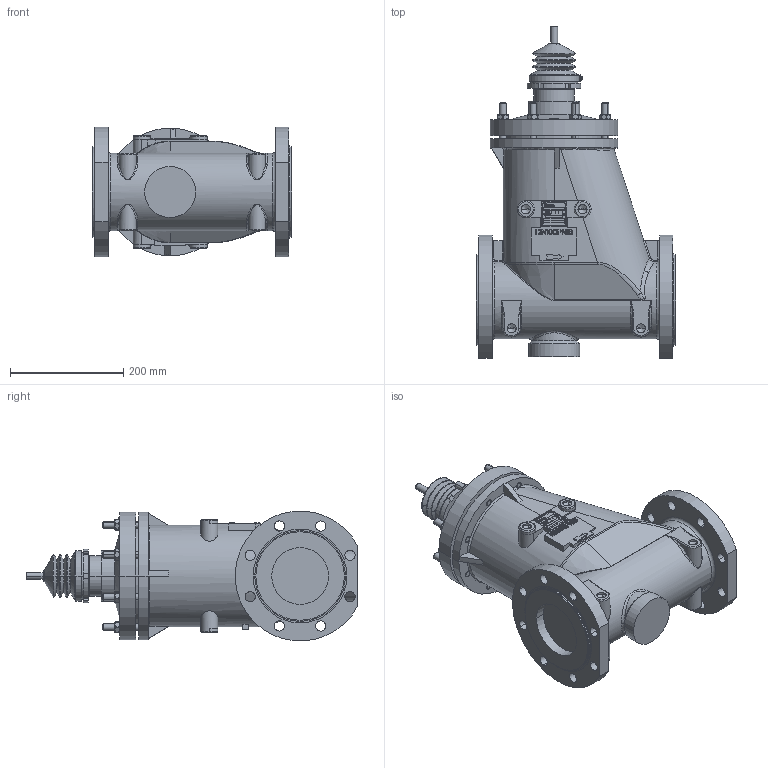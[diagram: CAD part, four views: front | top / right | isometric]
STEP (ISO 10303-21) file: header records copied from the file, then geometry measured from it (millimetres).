
FILE_DESCRIPTION((''),'2;1');
FILE_NAME('9560-00-5025_A_ASM','2014-04-09T',('SParmar1'),(''),'PRO/ENGINEER BY PARAMETRIC TECHNOLOGY CORPORATION, 2011040','PRO/ENGINEER BY PARAMETRIC TECHNOLOGY CORPORATION, 2011040','');
FILE_SCHEMA(('CONFIG_CONTROL_DESIGN'));
Products named in the file (6): 9567-16-2005; 9568-27-5105; 4188_11_1060; 4117-42-1044; M12_X_HEX_NUT; 9560-00-5025_A_ASM
Assembly tree (19 placements, depth 2):
  9560-00-5025_A_ASM
    9567-16-2005
    9568-27-5105
    4188_11_1060
    4117-42-1044  x8
    M12_X_HEX_NUT  x8
Bounding box: 352 x 585 x 228.51 mm (x, y, z)
Volume: 15793781.1 mm3; surface area: 778975.8 mm2
Topology: 20 solids, 22 shells, 2832 faces, 7673 edges, 5014 vertices
Faces by surface type: plane 2331, cylinder 267, cone 102, torus 80, bspline 46, sphere 6
Entity records: 87299 total; most frequent: CARTESIAN_POINT 18879, ORIENTED_EDGE 14654, DIRECTION 13153, EDGE_CURVE 7327, VECTOR 6507, LINE 6507, VERTEX_POINT 4818, AXIS2_PLACEMENT_3D 3323
